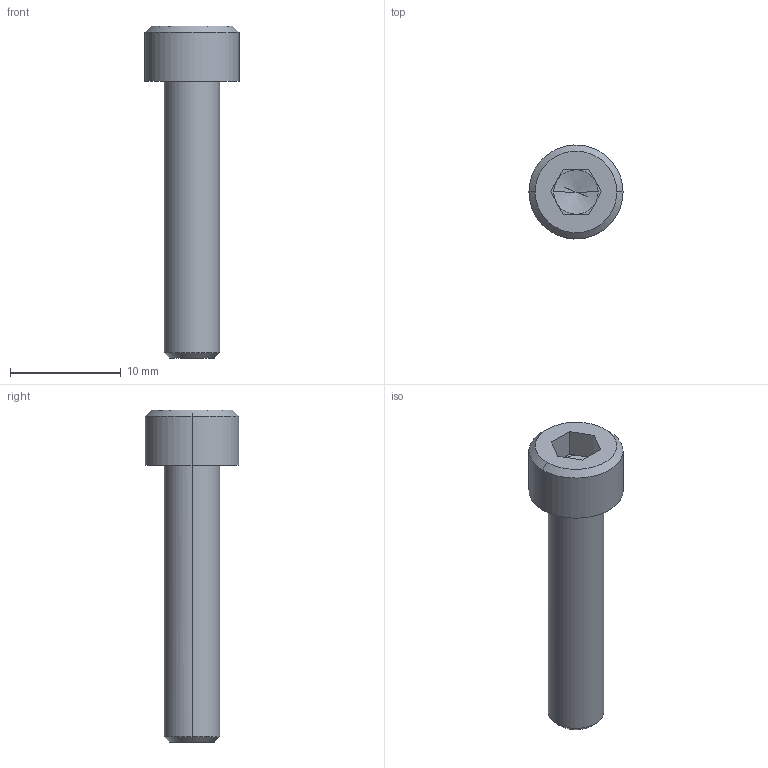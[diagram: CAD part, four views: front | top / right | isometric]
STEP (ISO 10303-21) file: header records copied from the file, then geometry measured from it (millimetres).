
FILE_DESCRIPTION(/* description */ (''),/* implementation_level */ '2;1');
FILE_NAME(/* name */ 'X-E79A~1',/* time_stamp */ '2014-02-14T19:47:24+01:00',/* author */ (''),/* organization */ (''),/* preprocessor_version */ 'ST-DEVELOPER v14',/* originating_system */ '',/* authorisation */ '');
FILE_SCHEMA (('AUTOMOTIVE_DESIGN'));
Length unit declared in the file: millimetre
Products named in the file (2): Document; screw DIN912-like, adhesive, M5x25
Assembly tree (1 placements, depth 2):
  Document
    screw DIN912-like, adhesive, M5x25
Bounding box: 8.5 x 8.49 x 30 mm (x, y, z)
Volume: 734.2 mm3; surface area: 661.1 mm2
Topology: 1 solids, 1 shells, 25 faces, 56 edges, 33 vertices
Faces by surface type: plane 15, bspline 10
Entity records: 1405 total; most frequent: CARTESIAN_POINT 632, B_SPLINE_CURVE_WITH_KNOTS 126, ORIENTED_EDGE 108, PCURVE 108, DEFINITIONAL_REPRESENTATION 108, SURFACE_CURVE 54, EDGE_CURVE 54, VERTEX_POINT 33
